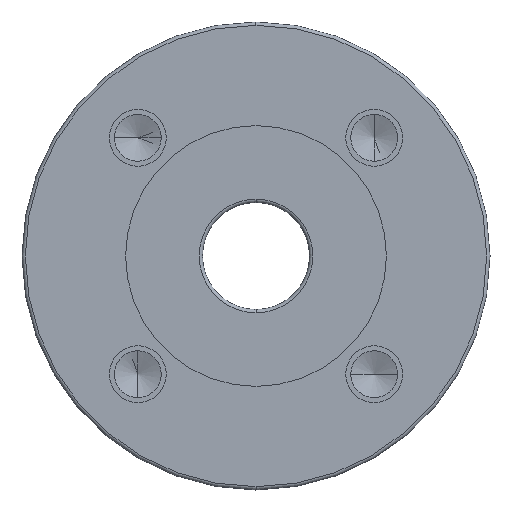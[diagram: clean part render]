
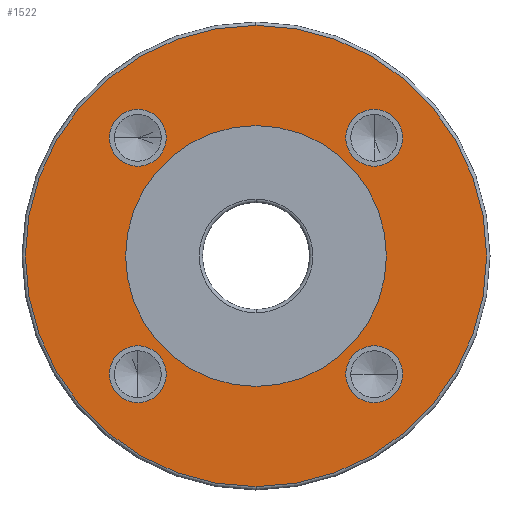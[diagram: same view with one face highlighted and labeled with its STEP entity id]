
A CAD part, left-side view. The second image highlights one B-rep face of the part: STEP entity #1522.
In plain terms, the highlighted planar face has unit normal (-1, 0, 0).
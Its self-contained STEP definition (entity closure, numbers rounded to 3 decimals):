
#9 = VERTEX_POINT ( 'NONE', #1892 ) ;
#38 = AXIS2_PLACEMENT_3D ( 'NONE', #43, #76, #75 ) ;
#43 = CARTESIAN_POINT ( 'NONE',  ( -32., 0., 0. ) ) ;
#75 = DIRECTION ( 'NONE',  ( 0., 0., -1. ) ) ;
#76 = DIRECTION ( 'NONE',  ( -1., 0., 0. ) ) ;
#85 = CIRCLE ( 'NONE', #38, 69. ) ;
#89 = AXIS2_PLACEMENT_3D ( 'NONE', #127, #122, #117 ) ;
#117 = DIRECTION ( 'NONE',  ( 0., 0., -1. ) ) ;
#122 = DIRECTION ( 'NONE',  ( -1., 0., 0. ) ) ;
#123 = CARTESIAN_POINT ( 'NONE',  ( -32., -35.355, 26.855 ) ) ;
#127 = CARTESIAN_POINT ( 'NONE',  ( -32., -35.355, 35.355 ) ) ;
#128 = CIRCLE ( 'NONE', #89, 8.5 ) ;
#273 = CARTESIAN_POINT ( 'NONE',  ( -32., -43.855, -35.355 ) ) ;
#300 = CARTESIAN_POINT ( 'NONE',  ( -32., -26.855, -35.355 ) ) ;
#356 = CARTESIAN_POINT ( 'NONE',  ( -32., -35.355, -35.355 ) ) ;
#379 = DIRECTION ( 'NONE',  ( 0., 0., -1. ) ) ;
#380 = DIRECTION ( 'NONE',  ( -1., 0., 0. ) ) ;
#391 = AXIS2_PLACEMENT_3D ( 'NONE', #356, #380, #379 ) ;
#392 = CIRCLE ( 'NONE', #391, 8.5 ) ;
#399 = CARTESIAN_POINT ( 'NONE',  ( -32., 35.355, -43.855 ) ) ;
#400 = DIRECTION ( 'NONE',  ( 0., 0., -1. ) ) ;
#401 = DIRECTION ( 'NONE',  ( -1., 0., 0. ) ) ;
#402 = CARTESIAN_POINT ( 'NONE',  ( -32., 35.355, -35.355 ) ) ;
#417 = CIRCLE ( 'NONE', #426, 8.5 ) ;
#426 = AXIS2_PLACEMENT_3D ( 'NONE', #402, #401, #400 ) ;
#440 = CARTESIAN_POINT ( 'NONE',  ( -32., 35.355, -26.855 ) ) ;
#462 = CARTESIAN_POINT ( 'NONE',  ( -32., 0., 39. ) ) ;
#503 = PLANE ( 'NONE',  #550 ) ;
#506 = CARTESIAN_POINT ( 'NONE',  ( -32., 0., -39. ) ) ;
#517 = DIRECTION ( 'NONE',  ( 0., 0., 1. ) ) ;
#518 = DIRECTION ( 'NONE',  ( -1., 0., 0. ) ) ;
#521 = CARTESIAN_POINT ( 'NONE',  ( -32., 0., 0. ) ) ;
#529 = CIRCLE ( 'NONE', #532, 39. ) ;
#532 = AXIS2_PLACEMENT_3D ( 'NONE', #521, #518, #517 ) ;
#537 = DIRECTION ( 'NONE',  ( 0., 0., -1. ) ) ;
#538 = DIRECTION ( 'NONE',  ( -1., 0., 0. ) ) ;
#539 = CARTESIAN_POINT ( 'NONE',  ( -32., -35.355, 35.355 ) ) ;
#540 = AXIS2_PLACEMENT_3D ( 'NONE', #539, #538, #537 ) ;
#541 = CIRCLE ( 'NONE', #540, 8.5 ) ;
#542 = DIRECTION ( 'NONE',  ( 0., 0., -1. ) ) ;
#543 = DIRECTION ( 'NONE',  ( 1., 0., 0. ) ) ;
#544 = CARTESIAN_POINT ( 'NONE',  ( -32., 70., 0. ) ) ;
#545 = FACE_BOUND ( 'NONE', #1580, .T. ) ;
#546 = FACE_OUTER_BOUND ( 'NONE', #1536, .T. ) ;
#549 = FACE_BOUND ( 'NONE', #1526, .T. ) ;
#550 = AXIS2_PLACEMENT_3D ( 'NONE', #544, #543, #542 ) ;
#551 = FACE_BOUND ( 'NONE', #1544, .T. ) ;
#553 = FACE_BOUND ( 'NONE', #1581, .T. ) ;
#561 = CIRCLE ( 'NONE', #592, 69. ) ;
#562 = FACE_BOUND ( 'NONE', #1573, .T. ) ;
#589 = DIRECTION ( 'NONE',  ( 0., 0., -1. ) ) ;
#590 = DIRECTION ( 'NONE',  ( -1., 0., 0. ) ) ;
#591 = CARTESIAN_POINT ( 'NONE',  ( -32., 0., 0. ) ) ;
#592 = AXIS2_PLACEMENT_3D ( 'NONE', #591, #590, #589 ) ;
#595 = AXIS2_PLACEMENT_3D ( 'NONE', #647, #646, #645 ) ;
#625 = CARTESIAN_POINT ( 'NONE',  ( -32., -35.355, -35.355 ) ) ;
#628 = AXIS2_PLACEMENT_3D ( 'NONE', #625, #633, #683 ) ;
#631 = DIRECTION ( 'NONE',  ( 0., 0., -1. ) ) ;
#632 = DIRECTION ( 'NONE',  ( -1., 0., 0. ) ) ;
#633 = DIRECTION ( 'NONE',  ( -1., 0., 0. ) ) ;
#634 = CIRCLE ( 'NONE', #628, 8.5 ) ;
#639 = CIRCLE ( 'NONE', #643, 8.5 ) ;
#641 = CARTESIAN_POINT ( 'NONE',  ( -32., 35.355, -35.355 ) ) ;
#643 = AXIS2_PLACEMENT_3D ( 'NONE', #641, #632, #631 ) ;
#645 = DIRECTION ( 'NONE',  ( 0., 0., -1. ) ) ;
#646 = DIRECTION ( 'NONE',  ( -1., 0., 0. ) ) ;
#647 = CARTESIAN_POINT ( 'NONE',  ( -32., 35.355, 35.355 ) ) ;
#648 = CIRCLE ( 'NONE', #595, 8.5 ) ;
#677 = DIRECTION ( 'NONE',  ( 0., 0., 1. ) ) ;
#678 = DIRECTION ( 'NONE',  ( -1., 0., 0. ) ) ;
#679 = CARTESIAN_POINT ( 'NONE',  ( -32., 0., 0. ) ) ;
#680 = AXIS2_PLACEMENT_3D ( 'NONE', #679, #678, #677 ) ;
#681 = CIRCLE ( 'NONE', #680, 39. ) ;
#683 = DIRECTION ( 'NONE',  ( 0., 0., -1. ) ) ;
#779 = CARTESIAN_POINT ( 'NONE',  ( -32., 26.855, 35.355 ) ) ;
#815 = CARTESIAN_POINT ( 'NONE',  ( -32., 43.855, 35.355 ) ) ;
#836 = DIRECTION ( 'NONE',  ( 0., 0., -1. ) ) ;
#837 = DIRECTION ( 'NONE',  ( -1., 0., 0. ) ) ;
#838 = CARTESIAN_POINT ( 'NONE',  ( -32., 35.355, 35.355 ) ) ;
#839 = AXIS2_PLACEMENT_3D ( 'NONE', #838, #837, #836 ) ;
#840 = CIRCLE ( 'NONE', #839, 8.5 ) ;
#1247 = VERTEX_POINT ( 'NONE', #2069 ) ;
#1248 = VERTEX_POINT ( 'NONE', #2062 ) ;
#1273 = EDGE_CURVE ( 'NONE', #1248, #1247, #85, .T. ) ;
#1315 = VERTEX_POINT ( 'NONE', #123 ) ;
#1319 = EDGE_CURVE ( 'NONE', #9, #1315, #128, .T. ) ;
#1394 = VERTEX_POINT ( 'NONE', #273 ) ;
#1402 = VERTEX_POINT ( 'NONE', #300 ) ;
#1443 = EDGE_CURVE ( 'NONE', #1394, #1402, #392, .T. ) ;
#1459 = EDGE_CURVE ( 'NONE', #1473, #1472, #417, .T. ) ;
#1472 = VERTEX_POINT ( 'NONE', #440 ) ;
#1473 = VERTEX_POINT ( 'NONE', #399 ) ;
#1489 = VERTEX_POINT ( 'NONE', #462 ) ;
#1507 = EDGE_CURVE ( 'NONE', #1489, #1515, #529, .T. ) ;
#1515 = VERTEX_POINT ( 'NONE', #506 ) ;
#1522 = ADVANCED_FACE ( 'NONE', ( #546, #551, #549, #562, #553, #545 ), #503, .F. ) ;
#1523 = ORIENTED_EDGE ( 'NONE', *, *, #1524, .F. ) ;
#1524 = EDGE_CURVE ( 'NONE', #1315, #9, #541, .T. ) ;
#1525 = ORIENTED_EDGE ( 'NONE', *, *, #1527, .T. ) ;
#1526 = EDGE_LOOP ( 'NONE', ( #1576, #1574 ) ) ;
#1527 = EDGE_CURVE ( 'NONE', #1247, #1248, #561, .T. ) ;
#1528 = ORIENTED_EDGE ( 'NONE', *, *, #1273, .T. ) ;
#1536 = EDGE_LOOP ( 'NONE', ( #1525, #1528 ) ) ;
#1544 = EDGE_LOOP ( 'NONE', ( #1523, #1546 ) ) ;
#1546 = ORIENTED_EDGE ( 'NONE', *, *, #1319, .F. ) ;
#1562 = ORIENTED_EDGE ( 'NONE', *, *, #1578, .F. ) ;
#1566 = ORIENTED_EDGE ( 'NONE', *, *, #1443, .F. ) ;
#1567 = EDGE_CURVE ( 'NONE', #1700, #1702, #648, .T. ) ;
#1568 = ORIENTED_EDGE ( 'NONE', *, *, #1715, .F. ) ;
#1572 = EDGE_CURVE ( 'NONE', #1472, #1473, #639, .T. ) ;
#1573 = EDGE_LOOP ( 'NONE', ( #1579, #1577 ) ) ;
#1574 = ORIENTED_EDGE ( 'NONE', *, *, #1459, .F. ) ;
#1575 = ORIENTED_EDGE ( 'NONE', *, *, #1567, .F. ) ;
#1576 = ORIENTED_EDGE ( 'NONE', *, *, #1572, .F. ) ;
#1577 = ORIENTED_EDGE ( 'NONE', *, *, #1582, .F. ) ;
#1578 = EDGE_CURVE ( 'NONE', #1402, #1394, #634, .T. ) ;
#1579 = ORIENTED_EDGE ( 'NONE', *, *, #1507, .F. ) ;
#1580 = EDGE_LOOP ( 'NONE', ( #1575, #1568 ) ) ;
#1581 = EDGE_LOOP ( 'NONE', ( #1562, #1566 ) ) ;
#1582 = EDGE_CURVE ( 'NONE', #1515, #1489, #681, .T. ) ;
#1700 = VERTEX_POINT ( 'NONE', #779 ) ;
#1702 = VERTEX_POINT ( 'NONE', #815 ) ;
#1715 = EDGE_CURVE ( 'NONE', #1702, #1700, #840, .T. ) ;
#1892 = CARTESIAN_POINT ( 'NONE',  ( -32., -35.355, 43.855 ) ) ;
#2062 = CARTESIAN_POINT ( 'NONE',  ( -32., 0., 69. ) ) ;
#2069 = CARTESIAN_POINT ( 'NONE',  ( -32., 0., -69. ) ) ;
